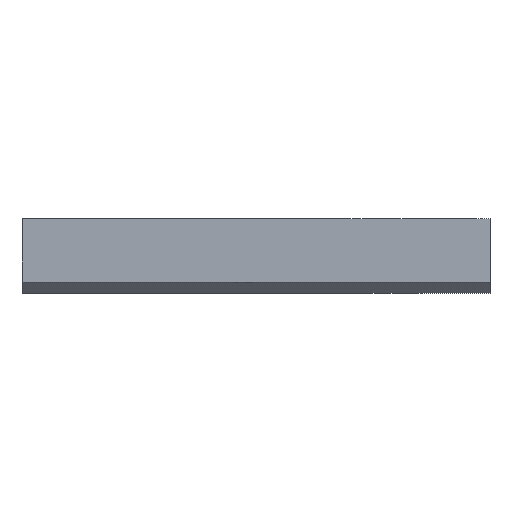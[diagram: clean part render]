
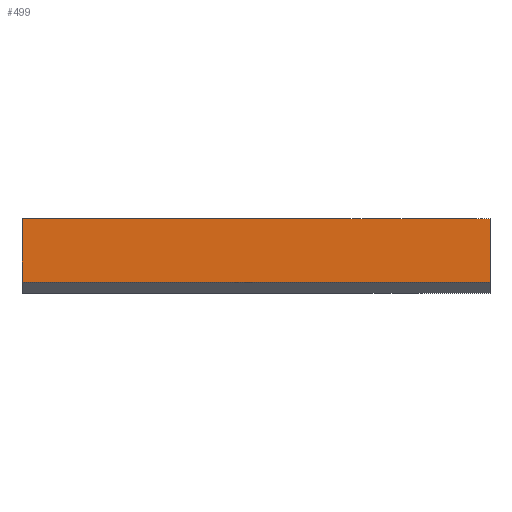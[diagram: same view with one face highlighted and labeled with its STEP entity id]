
A CAD part, front view. The second image highlights one B-rep face of the part: STEP entity #499.
In plain terms, the highlighted planar face has unit normal (0, -1, 0).
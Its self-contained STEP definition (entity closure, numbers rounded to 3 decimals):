
#113 = AXIS2_PLACEMENT_3D ( 'NONE', #5110, #1333, #2208 ) ;
#123 = LINE ( 'NONE', #4348, #3627 ) ;
#157 = ORIENTED_EDGE ( 'NONE', *, *, #2525, .F. ) ;
#499 = ADVANCED_FACE ( 'NONE', ( #2831 ), #2641, .T. ) ;
#508 = EDGE_CURVE ( 'NONE', #3484, #2346, #589, .T. ) ;
#547 = EDGE_CURVE ( 'NONE', #663, #2346, #123, .T. ) ;
#578 = EDGE_CURVE ( 'NONE', #3909, #663, #5939, .T. ) ;
#589 = LINE ( 'NONE', #2546, #1459 ) ;
#663 = VERTEX_POINT ( 'NONE', #2072 ) ;
#899 = ORIENTED_EDGE ( 'NONE', *, *, #578, .T. ) ;
#1110 = CARTESIAN_POINT ( 'NONE',  ( 0., 0., 11.5 ) ) ;
#1333 = DIRECTION ( 'NONE',  ( 0., -1., 0. ) ) ;
#1403 = ORIENTED_EDGE ( 'NONE', *, *, #547, .T. ) ;
#1459 = VECTOR ( 'NONE', #5821, 1000. ) ;
#1488 = ORIENTED_EDGE ( 'NONE', *, *, #508, .F. ) ;
#2046 = VECTOR ( 'NONE', #2708, 1000. ) ;
#2072 = CARTESIAN_POINT ( 'NONE',  ( 125., 0., 3. ) ) ;
#2208 = DIRECTION ( 'NONE',  ( 0., 0., -1. ) ) ;
#2290 = DIRECTION ( 'NONE',  ( 1., 0., 0. ) ) ;
#2346 = VERTEX_POINT ( 'NONE', #2686 ) ;
#2429 = CARTESIAN_POINT ( 'NONE',  ( 0., 0., 3. ) ) ;
#2521 = CARTESIAN_POINT ( 'NONE',  ( 62.5, 0., 3. ) ) ;
#2525 = EDGE_CURVE ( 'NONE', #3909, #3484, #3277, .T. ) ;
#2546 = CARTESIAN_POINT ( 'NONE',  ( 62.5, 0., 20. ) ) ;
#2641 = PLANE ( 'NONE',  #113 ) ;
#2656 = EDGE_LOOP ( 'NONE', ( #1403, #1488, #157, #899 ) ) ;
#2686 = CARTESIAN_POINT ( 'NONE',  ( 125., 0., 20. ) ) ;
#2708 = DIRECTION ( 'NONE',  ( 0., 0., 1. ) ) ;
#2831 = FACE_OUTER_BOUND ( 'NONE', #2656, .T. ) ;
#3277 = LINE ( 'NONE', #1110, #2046 ) ;
#3484 = VERTEX_POINT ( 'NONE', #5922 ) ;
#3627 = VECTOR ( 'NONE', #4513, 1000. ) ;
#3909 = VERTEX_POINT ( 'NONE', #2429 ) ;
#4348 = CARTESIAN_POINT ( 'NONE',  ( 125., 0., 11.5 ) ) ;
#4513 = DIRECTION ( 'NONE',  ( 0., 0., 1. ) ) ;
#4566 = VECTOR ( 'NONE', #2290, 1000. ) ;
#5110 = CARTESIAN_POINT ( 'NONE',  ( 0., 0., 0. ) ) ;
#5821 = DIRECTION ( 'NONE',  ( 1., 0., 0. ) ) ;
#5922 = CARTESIAN_POINT ( 'NONE',  ( 0., 0., 20. ) ) ;
#5939 = LINE ( 'NONE', #2521, #4566 ) ;
